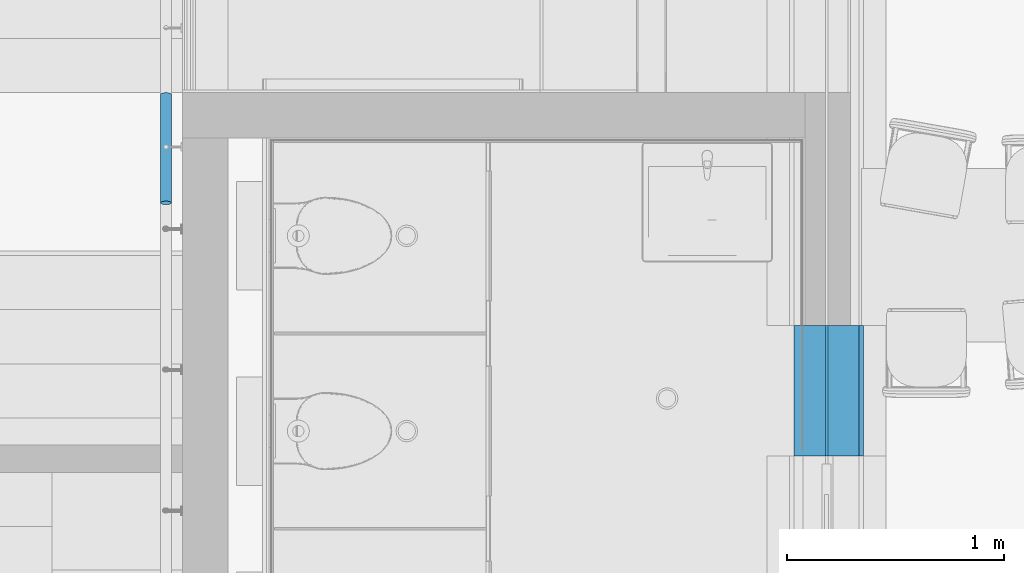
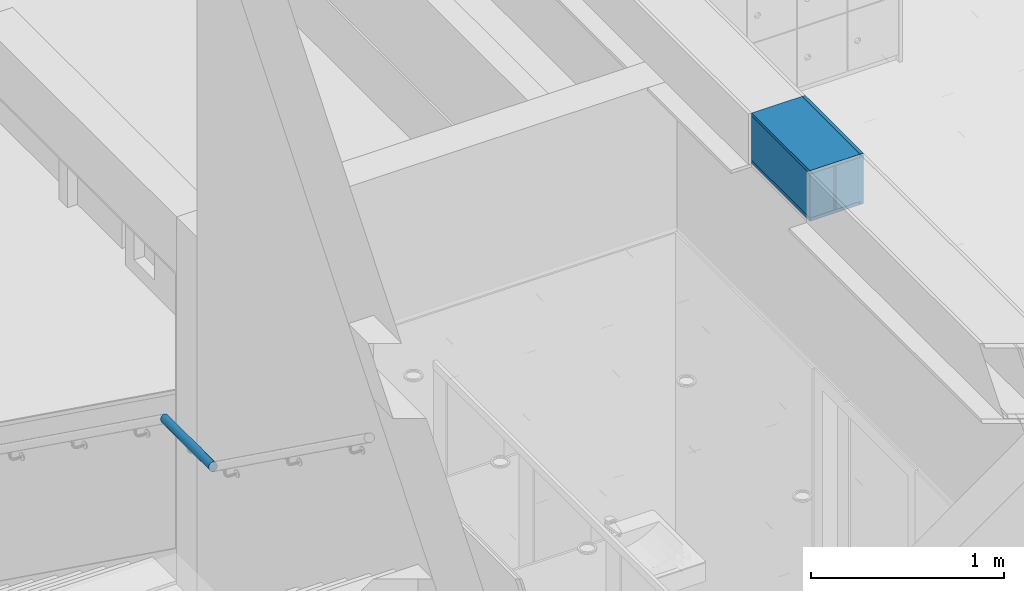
# One storey, part 140 of 347: 5 building element parts, 3 elements without a shape of their own.
"""IFC2X3 building model written with IfcOpenShell, lengths in millimetres."""

from ifc_helpers import new_model, entity, si_unit, converted_unit, derived_unit, money_unit, direction, frame, origin_with_axes, place, context, subcontext, project, spatial, faceted_brep, material, type_object, element, aggregate, save


model = new_model("IFC2X3")

# Units and contexts
model_context = context("Model", 3, precision=0.01, world=origin_with_axes(), true_north=direction((0.0, 1.0)))
plan_context = context("Plan", 3, precision=0.01, world=origin_with_axes(), true_north=direction((0.0, 1.0)))
body_context = subcontext(model_context, "Body", "Model", "MODEL_VIEW")
ifc_project = project(units=[si_unit("LENGTHUNIT", "METRE", prefix="MILLI"), si_unit("AREAUNIT", "SQUARE_METRE"), si_unit("VOLUMEUNIT", "CUBIC_METRE"), converted_unit("PLANEANGLEUNIT", "DEGREE", entity("IfcPlaneAngleMeasure", 0.0174532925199), si_unit("PLANEANGLEUNIT", "RADIAN"), dimensions=[0, 0, 0, 0, 0, 0, 0]), money_unit("EUR"), converted_unit("TIMEUNIT", "Year", entity("IfcTimeMeasure", 31556926.0), si_unit("TIMEUNIT", "SECOND"), dimensions=[0, 0, 1, 0, 0, 0, 0]), si_unit("MASSUNIT", "GRAM", prefix="KILO"), si_unit("THERMODYNAMICTEMPERATUREUNIT", "DEGREE_CELSIUS"), si_unit("LUMINOUSINTENSITYUNIT", "LUMEN"), si_unit("ENERGYUNIT", "JOULE", prefix="MEGA"), derived_unit("THERMALCONDUCTANCEUNIT", [(si_unit("POWERUNIT", "WATT"), 1), (si_unit("LENGTHUNIT", "METRE"), -1), (si_unit("THERMODYNAMICTEMPERATUREUNIT", "KELVIN"), -1)]), derived_unit("SPECIFICHEATCAPACITYUNIT", [(si_unit("ENERGYUNIT", "JOULE"), 1), (si_unit("MASSUNIT", "GRAM", prefix="KILO"), -1), (si_unit("THERMODYNAMICTEMPERATUREUNIT", "KELVIN"), -1)]), derived_unit("MASSDENSITYUNIT", [(si_unit("MASSUNIT", "GRAM", prefix="KILO"), 1), (si_unit("VOLUMEUNIT", "CUBIC_METRE"), -1)])], contexts=[model_context, plan_context])

# Site, building, storey
site_placement = place(None, origin_with_axes())
site = spatial("IfcSite", under=ifc_project, at=site_placement, Name="Site", CompositionType="ELEMENT")
building_placement = place(site_placement, origin_with_axes())
building = spatial("IfcBuilding", under=site, at=building_placement, Name="Naam gebouw", CompositionType="ELEMENT")
storey_placement = place(building_placement, origin_with_axes())
storey = spatial("IfcBuildingStorey", under=building, at=storey_placement, Name="begane grond", CompositionType="ELEMENT", Elevation=0.0)

# Railing, member, building element part
railing_type = type_object("IfcRailingType", Name="Railing Type", PredefinedType="NOTDEFINED")
railing_placement = place(storey_placement, frame((41575.0, 36499.9999823, 72.0000018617), z_axis=(0.0, 0.0, 1.0), x_axis=(1.0, 0.0, 0.0)))
railing = element("IfcRailing", 1, at=railing_placement, inside=storey, type_object=railing_type, Name="_Reling-x", PredefinedType="NOTDEFINED")
member_type = type_object("IfcMemberType", Name="IfcMember", PredefinedType="USERDEFINED")
member_placement = place(railing_placement, frame((-75.0, -1949.99997509, 2212.0982987), z_axis=(0.0, 0.0, 1.0), x_axis=(1.0, 0.0, 0.0)))
member = element("IfcMember", 2, at=member_placement, type_object=member_type, Name="_Handregel-x")
aggregate(railing, [member])
ifc_material_1 = material(Name="Hout AFW")
building_element_part_1_placement = place(member_placement, origin_with_axes())
building_element_part_1 = element("IfcBuildingElementPart", 3, at=building_element_part_1_placement, material=ifc_material_1, Name="Hout AFW", context=body_context, shape_type="Brep", body=[
    faceted_brep([(25.0, 241.936356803, 30.9016994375), (24.6201938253, 243.336598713, 35.2429038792), (24.6201938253, -256.663458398, 35.2429038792), (25.0, -258.063700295, 30.9016994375), (24.6201938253, 240.536114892, 26.5604949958), (23.4923155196, 239.178418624, 22.3511958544), (21.6506350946, 237.904520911, 18.4016994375), (19.151111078, 236.753128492, 14.8320091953), (16.0696902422, 235.759225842, 11.7505883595), (12.5, 234.953012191, 9.25106434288), (8.55050358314, 234.358983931, 7.40938391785), (4.34120444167, 233.995190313, 6.28150561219), (0.0, 233.872685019, 5.90169943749), (-4.34120444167, 233.995190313, 6.28150561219), (-8.55050358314, 234.358983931, 7.40938391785), (-12.5, 234.953012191, 9.25106434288), (-16.0696902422, 235.759225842, 11.7505883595), (-19.151111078, 236.753128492, 14.8320091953), (-21.6506350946, 237.904520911, 18.4016994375), (-23.4923155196, 239.178418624, 22.3511958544), (-24.6201938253, 240.536114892, 26.5604949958), (-25.0, 241.936356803, 30.9016994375), (-24.6201938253, 243.336598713, 35.2429038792), (-23.4923155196, 244.694294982, 39.4522030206), (-21.6506350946, 245.968192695, 43.4016994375), (-19.151111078, 247.119585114, 46.9713896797), (-16.0696902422, 248.113487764, 50.0528105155), (-12.5, 248.919701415, 52.5523345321), (-8.55050358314, 249.513729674, 54.3940149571), (-4.34120444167, 249.877523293, 55.5218932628), (0.0, 250.000028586, 55.9016994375), (4.34120444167, 249.877523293, 55.5218932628), (8.55050358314, 249.513729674, 54.3940149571), (12.5, 248.919701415, 52.5523345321), (16.0696902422, 248.113487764, 50.0528105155), (19.151111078, 247.119585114, 46.9713896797), (21.6506350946, 245.968192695, 43.4016994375), (23.4923155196, 244.694294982, 39.4522030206), (23.4923155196, -255.305762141, 39.4522030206), (21.6506350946, -254.031864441, 43.4016994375), (19.151111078, -252.880472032, 46.9713896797), (16.0696902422, -251.886569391, 50.0528105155), (12.5, -251.080355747, 52.5523345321), (8.55050358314, -250.486327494, 54.3940149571), (4.34120444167, -250.122533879, 55.5218932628), (0.0, -250.000028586, 55.9016994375), (-4.34120444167, -250.122533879, 55.5218932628), (-8.55050358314, -250.486327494, 54.3940149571), (-12.5, -251.080355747, 52.5523345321), (-16.0696902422, -251.886569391, 50.0528105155), (-19.151111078, -252.880472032, 46.9713896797), (-21.6506350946, -254.031864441, 43.4016994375), (-23.4923155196, -255.305762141, 39.4522030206), (-24.6201938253, -256.663458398, 35.2429038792), (-25.0, -258.063700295, 30.9016994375), (-24.6201938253, -259.463942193, 26.5604949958), (-23.4923155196, -260.821638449, 22.3511958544), (-21.6506350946, -262.095536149, 18.4016994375), (-19.151111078, -263.246928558, 14.8320091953), (-16.0696902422, -264.240831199, 11.7505883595), (-12.5, -265.047044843, 9.25106434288), (-8.55050358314, -265.641073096, 7.40938391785), (-4.34120444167, -266.004866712, 6.28150561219), (0.0, -266.127372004, 5.90169943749), (4.34120444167, -266.004866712, 6.28150561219), (8.55050358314, -265.641073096, 7.40938391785), (12.5, -265.047044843, 9.25106434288), (16.0696902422, -264.240831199, 11.7505883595), (19.151111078, -263.246928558, 14.8320091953), (21.6506350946, -262.095536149, 18.4016994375), (23.4923155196, -260.821638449, 22.3511958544), (24.6201938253, -259.463942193, 26.5604949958)], [[[0, 1, 2, 3]], [[0, 4, 5, 6, 7, 8, 9, 10, 11, 12, 13, 14, 15, 16, 17, 18, 19, 20, 21, 22, 23, 24, 25, 26, 27, 28, 29, 30, 31, 32, 33, 34, 35, 36, 37, 1]], [[1, 37, 38, 2]], [[3, 2, 38, 39, 40, 41, 42, 43, 44, 45, 46, 47, 48, 49, 50, 51, 52, 53, 54, 55, 56, 57, 58, 59, 60, 61, 62, 63, 64, 65, 66, 67, 68, 69, 70, 71]], [[4, 0, 3, 71]], [[5, 4, 71, 70]], [[6, 5, 70, 69]], [[7, 6, 69, 68]], [[8, 7, 68, 67]], [[9, 8, 67, 66]], [[10, 9, 66, 65]], [[11, 10, 65, 64]], [[12, 11, 64, 63]], [[13, 12, 63, 62]], [[14, 13, 62, 61]], [[15, 14, 61, 60]], [[16, 15, 60, 59]], [[17, 16, 59, 58]], [[18, 17, 58, 57]], [[19, 18, 57, 56]], [[20, 19, 56, 55]], [[21, 20, 55, 54]], [[22, 21, 54, 53]], [[23, 22, 53, 52]], [[24, 23, 52, 51]], [[25, 24, 51, 50]], [[26, 25, 50, 49]], [[27, 26, 49, 48]], [[28, 27, 48, 47]], [[29, 28, 47, 46]], [[30, 29, 46, 45]], [[31, 30, 45, 44]], [[32, 31, 44, 43]], [[33, 32, 43, 42]], [[34, 33, 42, 41]], [[35, 34, 41, 40]], [[36, 35, 40, 39]], [[37, 36, 39, 38]]]),
])
aggregate(member, [building_element_part_1])

# Beam, building element parts
beam_type = type_object("IfcBeamType", Name="28 SFBHE320B/S355 (pet) 425 x 340", PredefinedType="BEAM")
beam_placement = place(storey_placement, frame((44545.0, 33727.4998786, 3560.0), z_axis=(0.0, 0.0, 1.0), x_axis=(-1.0, 0.0, 0.0)))
beam = element("IfcBeam", 4, at=beam_placement, inside=storey, type_object=beam_type, Name="28_Balk-x", ObjectType="BEAM")
ifc_material_2 = material(Name="Beton gewapend C vloer")
building_element_part_2_placement = place(beam_placement, origin_with_axes())
building_element_part_2 = element("IfcBuildingElementPart", 5, at=building_element_part_2_placement, material=ifc_material_2, Name="Beton gewapend C vloer", context=body_context, shape_type="Brep", body=[
    faceted_brep([(5.74999830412, 602.499854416, 20.5000013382), (150.0, 602.499854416, 20.5000013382), (150.0, 0.0, 20.5000013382), (5.74999830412, 0.0, 20.5000013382), (5.74999830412, 602.499854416, 299.500002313), (150.0, 602.499854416, 299.500002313), (150.0, 0.0, 299.500002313), (5.74999830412, 0.0, 299.500002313)], [[[0, 1, 2, 3]], [[0, 4, 5, 1]], [[1, 5, 6, 2]], [[3, 2, 6, 7]], [[4, 0, 3, 7]], [[5, 4, 7, 6]]]),
    faceted_brep([(-170.000001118, 602.499854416, 320.0), (-170.000001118, 602.499854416, -1.11758824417e-06), (-170.000001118, 0.0, -1.11758824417e-06), (-170.000001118, 0.0, 320.0), (-150.000001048, 602.499854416, 320.0), (-150.000001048, 602.499854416, 299.500002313), (-5.74999935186, 602.499854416, 299.500002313), (-5.74999935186, 602.499854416, 20.5000013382), (-150.000001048, 602.499854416, 20.5000013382), (-150.000001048, 602.499854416, -1.11758824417e-06), (-150.000001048, 0.0, -1.11758824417e-06), (-150.000001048, 0.0, 20.5000013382), (-5.74999935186, 0.0, 20.5000013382), (-5.74999935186, 0.0, 299.500002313), (-150.000001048, 0.0, 299.500002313), (-150.000001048, 0.0, 320.0)], [[[0, 1, 2, 3]], [[0, 4, 5, 6, 7, 8, 9, 1]], [[1, 9, 10, 2]], [[3, 2, 10, 11, 12, 13, 14, 15]], [[4, 0, 3, 15]], [[5, 4, 15, 14]], [[6, 5, 14, 13]], [[7, 6, 13, 12]], [[8, 7, 12, 11]], [[9, 8, 11, 10]]]),
])
ifc_material_3 = material(Name="Metaal - Staal C")
building_element_part_3_placement = place(beam_placement, origin_with_axes())
building_element_part_3 = element("IfcBuildingElementPart", 6, at=building_element_part_3_placement, material=ifc_material_3, Name="Metaal - Staal C", context=body_context, shape_type="Brep", body=[
    faceted_brep([(-150.000002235, 602.499854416, 20.4999990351), (-150.000002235, 602.499854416, -1.11758824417e-06), (-150.000002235, 0.0, -1.11758824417e-06), (-150.000002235, 0.0, 20.4999990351), (150.0, 602.499854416, 20.4999990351), (150.0, 602.499854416, -1.11758824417e-06), (150.0, 0.0, -1.11758824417e-06), (150.0, 0.0, 20.4999990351)], [[[0, 1, 2, 3]], [[0, 4, 5, 1]], [[1, 5, 6, 2]], [[3, 2, 6, 7]], [[4, 0, 3, 7]], [[5, 4, 7, 6]]]),
])
building_element_part_4_placement = place(beam_placement, origin_with_axes())
building_element_part_4 = element("IfcBuildingElementPart", 7, at=building_element_part_4_placement, material=ifc_material_3, Name="Metaal - Staal C", context=body_context, shape_type="Brep", body=[
    faceted_brep([(-5.75, 602.499854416, 299.5), (-5.75, 602.499854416, 20.5), (-5.75, 0.0, 20.5), (-5.75, 0.0, 299.5), (5.75, 602.499854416, 299.5), (5.75, 602.499854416, 20.5), (5.75, 0.0, 20.5), (5.75, 0.0, 299.5)], [[[0, 1, 2, 3]], [[0, 4, 5, 1]], [[1, 5, 6, 2]], [[3, 2, 6, 7]], [[4, 0, 3, 7]], [[5, 4, 7, 6]]]),
])
building_element_part_5_placement = place(beam_placement, origin_with_axes())
building_element_part_5 = element("IfcBuildingElementPart", 8, at=building_element_part_5_placement, material=ifc_material_3, Name="Metaal - Staal C", context=body_context, shape_type="Brep", body=[
    faceted_brep([(-150.0, 602.499854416, 320.0), (-150.0, 602.499854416, 299.5), (-150.0, 0.0, 299.5), (-150.0, 0.0, 320.0), (150.0, 602.499854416, 320.0), (150.0, 602.499854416, 299.5), (150.0, 0.0, 299.5), (150.0, 0.0, 320.0)], [[[0, 1, 2, 3]], [[0, 4, 5, 1]], [[1, 5, 6, 2]], [[3, 2, 6, 7]], [[4, 0, 3, 7]], [[5, 4, 7, 6]]]),
])
aggregate(beam, [building_element_part_2, building_element_part_3, building_element_part_4, building_element_part_5])

save(model, "model.ifc")
